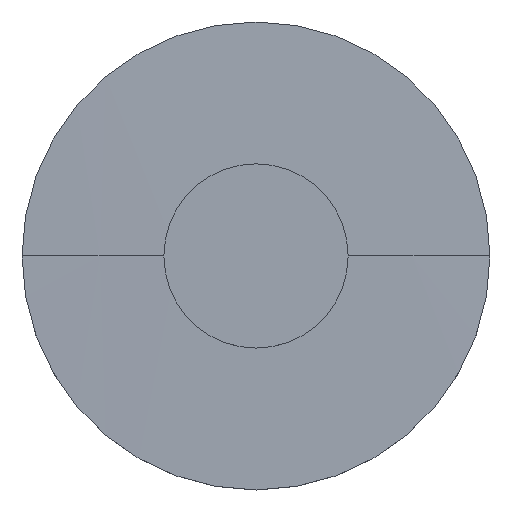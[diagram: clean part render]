
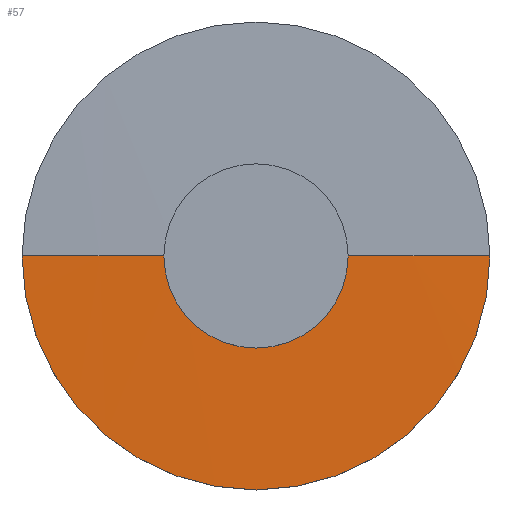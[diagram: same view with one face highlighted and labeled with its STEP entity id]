
A CAD part, top view. The second image highlights one B-rep face of the part: STEP entity #57.
In plain terms, the highlighted spherical face has radius 1412.43 mm.
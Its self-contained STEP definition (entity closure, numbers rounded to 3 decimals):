
#57=ADVANCED_FACE('',(#71),#72,.T.);
#71=FACE_OUTER_BOUND('',#91,.T.);
#72=SPHERICAL_SURFACE('',#92,1412.429);
#91=EDGE_LOOP('',(#124,#125,#126));
#92=AXIS2_PLACEMENT_3D('',#127,#128,#129);
#124=ORIENTED_EDGE('',*,*,#173,.T.);
#125=ORIENTED_EDGE('',*,*,#174,.T.);
#126=ORIENTED_EDGE('',*,*,#175,.T.);
#127=CARTESIAN_POINT('',(0.0,0.0,-1405.929));
#128=DIRECTION('',(0.0,0.0,1.0));
#129=DIRECTION('',(1.0,0.0,0.0));
#173=EDGE_CURVE('',#189,#194,#195,.T.);
#174=EDGE_CURVE('',#194,#191,#196,.T.);
#175=EDGE_CURVE('',#191,#189,#197,.T.);
#189=VERTEX_POINT('',#215);
#191=VERTEX_POINT('',#218);
#194=VERTEX_POINT('',#222);
#195=CIRCLE('',#223,1412.429);
#196=CIRCLE('',#224,1412.429);
#197=CIRCLE('',#225,25.4);
#215=CARTESIAN_POINT('',(25.4,0.,6.272));
#218=CARTESIAN_POINT('',(-25.4,0.,6.272));
#222=CARTESIAN_POINT('',(0.0,0.0,6.5));
#223=AXIS2_PLACEMENT_3D('',#253,#254,#255);
#224=AXIS2_PLACEMENT_3D('',#256,#257,#258);
#225=AXIS2_PLACEMENT_3D('',#259,#260,#261);
#253=CARTESIAN_POINT('',(0.0,0.0,-1405.929));
#254=DIRECTION('',(0.,-1.0,0.0));
#255=DIRECTION('',(0.0,0.0,1.0));
#256=CARTESIAN_POINT('',(0.0,0.0,-1405.929));
#257=DIRECTION('',(0.,-1.0,0.0));
#258=DIRECTION('',(0.0,0.0,1.0));
#259=CARTESIAN_POINT('',(0.0,0.0,6.272));
#260=DIRECTION('',(0.0,0.0,1.0));
#261=DIRECTION('',(1.0,0.0,0.0));
